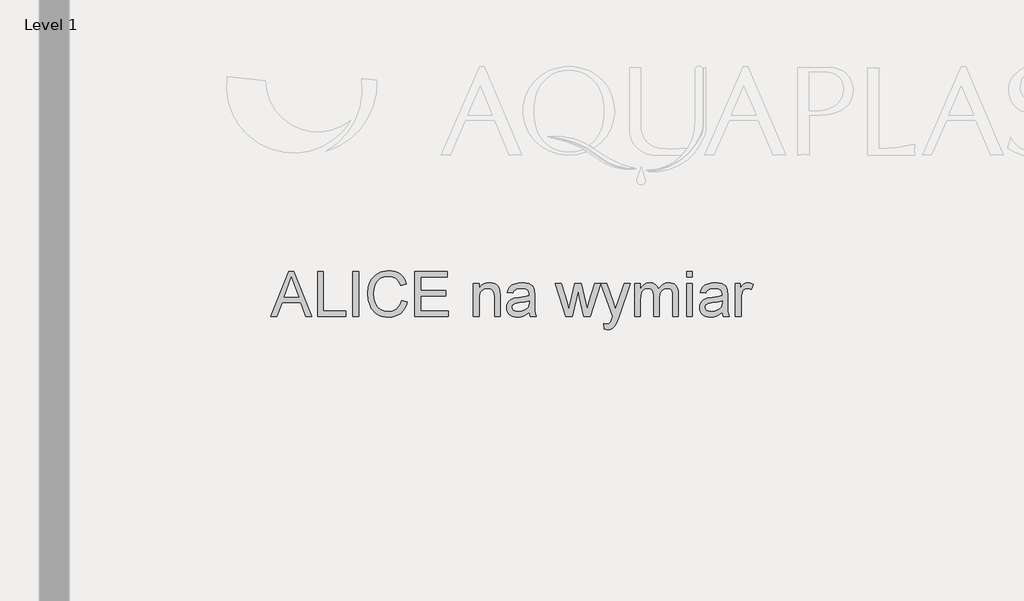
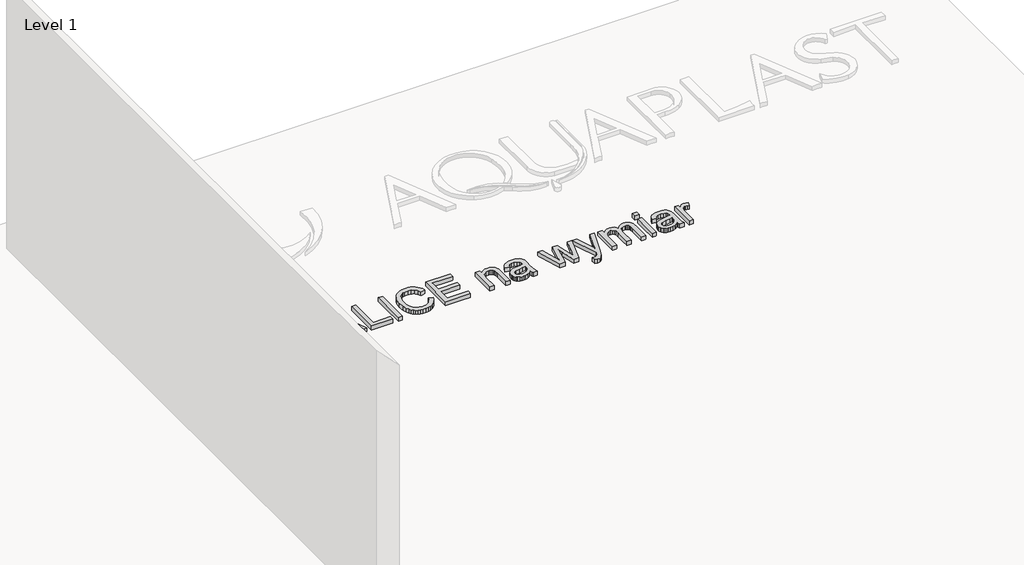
# One storey, part 9 of 9: 1 proxy.
"""IFC4 building model written with IfcOpenShell, lengths in millimetres."""

from ifc_helpers import new_model, si_unit, frame, origin, place, context, project, spatial, polyline, outline, extrude, element, save

model = new_model("IFC4")

# Units and contexts
model_context = context("Model", 3, world=origin())
ifc_project = project(units=[si_unit("LENGTHUNIT", "METRE", prefix="MILLI")], contexts=[model_context])

# Site, building, storey
site = spatial("IfcSite", under=ifc_project)
building = spatial("IfcBuilding", under=site)
storey = spatial("IfcBuildingStorey", under=building, Name="Level 1", Elevation=0.0)

# Proxy
placement = place(None, origin())
element("IfcBuildingElementProxy", 1, Name="400", ObjectType="400", at=placement, inside=storey, context=model_context, shape_type="SweptSolid", body=[
    extrude(outline(polyline([(-355.80079, 13060.2215643), (-195.4042401, 13462.0468049), (-152.6318268, 13462.0468049), (7.6666212, 13060.2215643), (-45.4064879, 13060.2215643), (-91.3181609, 13185.7919519), (-256.9141097, 13185.7919519), (-302.8257827, 13060.2215643), (-355.80079, 13060.2215643)]), holes=[polyline([(-238.470959, 13236.020107), (-109.6632098, 13236.020107), (-145.9609, 13334.8086855), (-174.1161353, 13411.8186498), (-199.132111, 13343.4416496), (-238.470959, 13236.020107)])]), frame((0.0, 0.0, 600.0), z_axis=(0.0, 0.0, 1.0), x_axis=(1.0, 0.0, 0.0)), (0.0, 0.0, 1.0), 50.0),
    extrude(outline(polyline([(61.3283416, 13060.2215643), (61.3283416, 13462.0468049), (111.5564967, 13462.0468049), (111.5564967, 13110.4497193), (312.469117, 13110.4497193), (312.469117, 13060.2215643), (61.3283416, 13060.2215643)])), frame((0.0, 0.0, 600.0), z_axis=(0.0, 0.0, 1.0), x_axis=(1.0, 0.0, 0.0)), (0.0, 0.0, 1.0), 50.0),
    extrude(outline(polyline([(375.2543108, 13060.2215643), (375.2543108, 13462.0468049), (425.4824659, 13462.0468049), (425.4824659, 13060.2215643), (375.2543108, 13060.2215643)])), frame((0.0, 0.0, 600.0), z_axis=(0.0, 0.0, 1.0), x_axis=(1.0, 0.0, 0.0)), (0.0, 0.0, 1.0), 50.0),
    extrude(outline(polyline([(808.4721483, 13203.0578803), (858.7003034, 13190.108434), (848.7613582, 13158.8721869), (835.5237377, 13131.5784086), (818.987442, 13108.2270989), (799.1524711, 13088.818258), (776.4664148, 13073.5603523), (751.3768627, 13062.6618482), (723.8838149, 13056.1227457), (693.9872714, 13053.9430449), (663.3580297, 13055.5923825), (635.7270261, 13060.5403953), (611.0942609, 13068.7870834), (589.4597339, 13080.3324467), (570.5260739, 13095.0048069), (553.9959095, 13112.6324858), (539.8692409, 13133.2154835), (528.146068, 13156.7537998), (512.3639304, 13208.6251611), (507.1032179, 13264.1753424), (513.0506435, 13322.7666815), (520.4849255, 13349.0641128), (530.8929202, 13373.3627186), (544.0416359, 13395.2608943), (559.6980805, 13414.3570355), (577.862254, 13430.6511423), (598.5341564, 13444.1432144), (621.0117463, 13454.7228875), (644.5929822, 13462.2797968), (695.066392, 13468.3253242), (723.7949101, 13466.3694183), (750.1383266, 13460.5017005), (774.0966416, 13450.7221708), (795.6698549, 13437.0308292), (814.5023474, 13419.7894263), (830.2384997, 13399.3597129), (842.8783119, 13375.7416888), (852.421784, 13348.9353541), (802.1936289, 13336.9669265), (784.7805478, 13373.5957105), (760.9908455, 13398.7220508), (730.5302163, 13413.2533896), (693.1043546, 13418.0971692), (649.9640593, 13412.726092), (631.2817854, 13406.0122456), (614.5247605, 13396.6128606), (587.6325866, 13371.4497322), (570.1336664, 13338.9289638), (560.5319463, 13302.1652898), (557.331373, 13264.2734442), (561.1205575, 13217.8712619), (572.4881112, 13177.747599), (591.8632296, 13145.4352971), (619.6751084, 13122.4671978), (653.0174799, 13108.7451994), (688.9840763, 13104.1711999), (710.8209384, 13105.7285671), (730.910361, 13110.4006684), (749.2523442, 13118.187504), (765.8468878, 13129.0890738), (780.3015846, 13143.0563268), (792.2240269, 13160.0402123), (801.6142148, 13180.0407301), (808.4721483, 13203.0578803)])), frame((0.0, 0.0, 600.0), z_axis=(0.0, 0.0, 1.0), x_axis=(1.0, 0.0, 0.0)), (0.0, 0.0, 1.0), 50.0),
    extrude(outline(polyline([(927.7640166, 13060.2215643), (927.7640166, 13462.0468049), (1216.5759083, 13462.0468049), (1216.5759083, 13411.8186498), (977.9921717, 13411.8186498), (977.9921717, 13292.5267815), (1204.0188695, 13292.5267815), (1204.0188695, 13242.2986264), (977.9921717, 13242.2986264), (977.9921717, 13110.4497193), (1222.8544277, 13110.4497193), (1222.8544277, 13060.2215643), (927.7640166, 13060.2215643)])), frame((0.0, 0.0, 600.0), z_axis=(0.0, 0.0, 1.0), x_axis=(1.0, 0.0, 0.0)), (0.0, 0.0, 1.0), 50.0),
    extrude(outline(polyline([(1448.8811255, 13060.2215643), (1448.8811255, 13355.3119753), (1499.1092806, 13355.3119753), (1499.1092806, 13314.1091919), (1516.5591499, 13334.8822619), (1537.5161609, 13349.720169), (1561.9803136, 13358.6229133), (1589.951608, 13361.5904947), (1614.7100662, 13359.1992617), (1637.3838599, 13352.0255628), (1656.2929944, 13340.9645775), (1669.7574754, 13326.9114853), (1678.8932117, 13309.9030744), (1684.8161118, 13289.976133), (1687.4648621, 13241.4157096), (1687.4648621, 13060.2215643), (1637.2367071, 13060.2215643), (1637.2367071, 13234.6466809), (1635.7897046, 13260.6191498), (1631.448697, 13279.0868259), (1623.4411322, 13292.318315), (1610.9944581, 13302.5822227), (1595.0406422, 13309.1673104), (1576.5116524, 13311.3623396), (1547.0933555, 13306.4327209), (1522.0160662, 13291.6438647), (1511.9943475, 13279.5712039), (1504.835977, 13263.0716964), (1500.5409547, 13242.1453422), (1499.1092806, 13216.7921414), (1499.1092806, 13060.2215643), (1448.8811255, 13060.2215643)])), frame((0.0, 0.0, 600.0), z_axis=(0.0, 0.0, 1.0), x_axis=(1.0, 0.0, 0.0)), (0.0, 0.0, 1.0), 50.0),
    extrude(outline(polyline([(1944.8841569, 13097.8926806), (1920.8859881, 13077.3158143), (1896.1765807, 13063.8513333), (1870.1918491, 13056.420117), (1842.3677076, 13053.9430449), (1820.003548, 13055.432967), (1800.3923719, 13059.9027332), (1783.5341795, 13067.3523436), (1769.4289707, 13077.7817982), (1758.2913433, 13090.5289093), (1750.3358951, 13104.9314894), (1745.5626262, 13120.9895385), (1743.9715366, 13138.7030566), (1746.3750323, 13159.5251775), (1753.5855194, 13178.434312), (1764.7078184, 13194.6211198), (1778.8467497, 13207.2762605), (1795.4627532, 13216.8411923), (1814.0162685, 13223.7573738), (1857.4753948, 13231.3112175), (1908.8317214, 13239.2574686), (1944.5898513, 13248.5771458), (1944.8841569, 13259.7607584), (1941.4260661, 13282.1770347), (1931.0517939, 13296.8432636), (1907.8507027, 13307.7325706), (1875.5261381, 13311.3623396), (1845.6050691, 13308.9465812), (1824.7093718, 13301.6993059), (1810.4600759, 13288.2961385), (1800.4782111, 13267.4127039), (1750.250056, 13273.6912233), (1758.9688593, 13301.1597456), (1771.9796192, 13322.742156), (1790.4963463, 13339.2477949), (1815.7330511, 13351.4860026), (1846.5983505, 13359.0643717), (1882.0008612, 13361.5904947), (1915.9563693, 13359.3586773), (1942.8730687, 13352.663225), (1963.1678921, 13342.595521), (1977.2577725, 13330.2469487), (1986.6019752, 13314.9798459), (1992.6597653, 13296.1565505), (1995.112312, 13252.2069148), (1995.112312, 13189.7160266), (1997.6629605, 13102.4544173), (2007.6693507, 13060.2215643), (1957.4411957, 13060.2215643), (1949.3968427, 13077.6836963), (1944.8841569, 13097.8926806)]), holes=[polyline([(1944.8841569, 13198.3489907), (1911.1371152, 13189.9858067), (1863.8520161, 13182.9469978), (1820.6381444, 13174.804543), (1809.3932181, 13169.2372622), (1801.0668223, 13161.5607912), (1795.9164743, 13152.3637413), (1794.1996917, 13142.2347237), (1797.9398253, 13127.2987147), (1809.1602261, 13115.060507), (1827.6156396, 13106.8935267), (1853.0608109, 13104.1711999), (1880.0388239, 13107.1755696), (1903.8775772, 13116.1886785), (1923.2036446, 13129.4692185), (1936.6436002, 13145.2758815), (1942.6032885, 13161.5607912), (1944.5898513, 13184.1242202), (1944.8841569, 13198.3489907)])]), frame((0.0, 0.0, 600.0), z_axis=(0.0, 0.0, 1.0), x_axis=(1.0, 0.0, 0.0)), (0.0, 0.0, 1.0), 50.0),
    extrude(outline(polyline([(2270.4842481, 13060.2215643), (2180.3286338, 13355.3119753), (2232.4207243, 13355.3119753), (2283.4336943, 13183.1432016), (2298.6394835, 13121.633332), (2311.0984204, 13180.8868587), (2351.6144908, 13355.3119753), (2411.2604249, 13355.3119753), (2451.7764953, 13181.377368), (2462.8620061, 13127.7156476), (2478.7545083, 13184.320424), (2529.7674783, 13355.3119753), (2582.1538744, 13355.3119753), (2491.7039545, 13060.2215643), (2431.0770017, 13060.2215643), (2392.4248668, 13233.2732548), (2381.2412541, 13287.2292807), (2331.5036084, 13060.2215643), (2270.4842481, 13060.2215643)])), frame((0.0, 0.0, 600.0), z_axis=(0.0, 0.0, 1.0), x_axis=(1.0, 0.0, 0.0)), (0.0, 0.0, 1.0), 50.0),
    extrude(outline(polyline([(2616.685731, 12947.2082153), (2610.4072116, 12995.572435), (2635.9136966, 12991.157851), (2649.3291267, 12992.5435399), (2659.7524499, 12996.7006064), (2674.3696279, 13012.1516502), (2688.103889, 13049.1360535), (2692.0279636, 13061.3006848), (2585.2931341, 13355.3119753), (2638.1700395, 13355.3119753), (2694.8729177, 13191.3837583), (2714.5913927, 13125.8517122), (2734.3098676, 13183.8299146), (2792.4842738, 13355.3119753), (2844.9687718, 13355.3119753), (2742.2561187, 13053.1582299), (2715.5724113, 12987.6261839), (2701.9117266, 12966.7059611), (2686.4361573, 12952.2114105), (2668.4835159, 12943.7501246), (2647.3916149, 12940.929696), (2616.685731, 12947.2082153)])), frame((0.0, 0.0, 600.0), z_axis=(0.0, 0.0, 1.0), x_axis=(1.0, 0.0, 0.0)), (0.0, 0.0, 1.0), 50.0),
    extrude(outline(polyline([(2886.6620646, 13060.2215643), (2886.6620646, 13355.3119753), (2936.8902196, 13355.3119753), (2936.8902196, 13306.751552), (2951.9979069, 13329.0574636), (2971.4220762, 13346.5318584), (2994.5005401, 13357.8258356), (3020.5711108, 13361.5904947), (3048.505617, 13357.7522592), (3070.8973677, 13346.2375528), (3087.6237358, 13327.8066648), (3098.5620938, 13303.2198848), (3116.8703544, 13328.7570266), (3137.753789, 13346.9978422), (3161.2123976, 13357.9423316), (3187.2461801, 13361.5904947), (3207.3539968, 13360.0729815), (3225.0031355, 13355.5204418), (3240.1935962, 13347.9328756), (3252.9253789, 13337.310283), (3262.9900172, 13323.5300366), (3270.1790445, 13306.4695091), (3274.4924609, 13286.1287004), (3275.9302664, 13262.5076107), (3275.9302664, 13060.2215643), (3225.7021113, 13060.2215643), (3225.7021113, 13240.9252003), (3224.5371517, 13265.9779642), (3221.0422727, 13282.8637477), (3214.4939732, 13294.4275051), (3204.1687519, 13303.5141904), (3190.8882118, 13309.4003023), (3175.4739562, 13311.3623396), (3148.2629513, 13306.334619), (3126.079667, 13291.2514572), (3117.474294, 13279.6815685), (3111.327599, 13265.0827846), (3106.410243, 13226.7985317), (3106.410243, 13060.2215643), (3056.1820879, 13060.2215643), (3056.1820879, 13246.5170066), (3053.2758202, 13274.9174966), (3044.5570169, 13295.1755318), (3029.2163377, 13307.3156377), (3006.4444422, 13311.3623396), (2987.0938492, 13308.6645383), (2969.2638352, 13300.5711344), (2954.5485554, 13287.2783317), (2944.5421651, 13268.9823338), (2938.803206, 13243.5984761), (2936.8902196, 13209.042094), (2936.8902196, 13060.2215643), (2886.6620646, 13060.2215643)])), frame((0.0, 0.0, 600.0), z_axis=(0.0, 0.0, 1.0), x_axis=(1.0, 0.0, 0.0)), (0.0, 0.0, 1.0), 50.0),
    extrude(outline(polyline([(3351.272499, 13411.8186498), (3351.272499, 13462.0468049), (3401.5006541, 13462.0468049), (3401.5006541, 13411.8186498), (3351.272499, 13411.8186498)])), frame((0.0, 0.0, 600.0), z_axis=(0.0, 0.0, 1.0), x_axis=(1.0, 0.0, 0.0)), (0.0, 0.0, 1.0), 50.0),
    extrude(outline(polyline([(3351.272499, 13060.2215643), (3351.272499, 13355.3119753), (3401.5006541, 13355.3119753), (3401.5006541, 13060.2215643), (3351.272499, 13060.2215643)])), frame((0.0, 0.0, 600.0), z_axis=(0.0, 0.0, 1.0), x_axis=(1.0, 0.0, 0.0)), (0.0, 0.0, 1.0), 50.0),
    extrude(outline(polyline([(3665.1984682, 13097.8926806), (3641.2002994, 13077.3158143), (3616.490892, 13063.8513333), (3590.5061605, 13056.420117), (3562.6820189, 13053.9430449), (3540.3178593, 13055.432967), (3520.7066832, 13059.9027332), (3503.8484908, 13067.3523436), (3489.743282, 13077.7817982), (3478.6056546, 13090.5289093), (3470.6502064, 13104.9314894), (3465.8769375, 13120.9895385), (3464.2858479, 13138.7030566), (3466.6893436, 13159.5251775), (3473.8998307, 13178.434312), (3485.0221297, 13194.6211198), (3499.1610611, 13207.2762605), (3515.7770645, 13216.8411923), (3534.3305798, 13223.7573738), (3577.7897062, 13231.3112175), (3629.1460327, 13239.2574686), (3664.9041626, 13248.5771458), (3665.1984682, 13259.7607584), (3661.7403775, 13282.1770347), (3651.3661052, 13296.8432636), (3628.165014, 13307.7325706), (3595.8404494, 13311.3623396), (3565.9193804, 13308.9465812), (3545.0236831, 13301.6993059), (3530.7743872, 13288.2961385), (3520.7925224, 13267.4127039), (3470.5643673, 13273.6912233), (3479.2831706, 13301.1597456), (3492.2939305, 13322.742156), (3510.8106576, 13339.2477949), (3536.0473624, 13351.4860026), (3566.9126618, 13359.0643717), (3602.3151725, 13361.5904947), (3636.2706807, 13359.3586773), (3663.18738, 13352.663225), (3683.4822034, 13342.595521), (3697.5720838, 13330.2469487), (3706.9162865, 13314.9798459), (3712.9740767, 13296.1565505), (3715.4266233, 13252.2069148), (3715.4266233, 13189.7160266), (3717.9772718, 13102.4544173), (3727.9836621, 13060.2215643), (3677.755507, 13060.2215643), (3669.711154, 13077.6836963), (3665.1984682, 13097.8926806)]), holes=[polyline([(3665.1984682, 13198.3489907), (3631.4514265, 13189.9858067), (3584.1663274, 13182.9469978), (3540.9524557, 13174.804543), (3529.7075294, 13169.2372622), (3521.3811336, 13161.5607912), (3516.2307856, 13152.3637413), (3514.514003, 13142.2347237), (3518.2541366, 13127.2987147), (3529.4745375, 13115.060507), (3547.9299509, 13106.8935267), (3573.3751222, 13104.1711999), (3600.3531352, 13107.1755696), (3624.1918885, 13116.1886785), (3643.517956, 13129.4692185), (3656.9579115, 13145.2758815), (3662.9175998, 13161.5607912), (3664.9041626, 13184.1242202), (3665.1984682, 13198.3489907)])]), frame((0.0, 0.0, 600.0), z_axis=(0.0, 0.0, 1.0), x_axis=(1.0, 0.0, 0.0)), (0.0, 0.0, 1.0), 50.0),
    extrude(outline(polyline([(3784.4903365, 13060.2215643), (3784.4903365, 13355.3119753), (3828.4399722, 13355.3119753), (3828.4399722, 13311.6566452), (3844.6758309, 13336.9669265), (3859.6363654, 13351.87841), (3874.6459508, 13359.1624735), (3891.0289623, 13361.5904947), (3916.044938, 13357.715471), (3941.4533211, 13346.0904), (3924.6779021, 13301.0616438), (3907.0195664, 13308.7871657), (3889.3612306, 13311.3623396), (3874.3639079, 13308.8852675), (3860.9607406, 13301.4540512), (3850.1327472, 13289.6327764), (3842.8609464, 13273.9855289), (3836.7541053, 13245.9283954), (3834.7184916, 13215.3206134), (3834.7184916, 13060.2215643), (3784.4903365, 13060.2215643)])), frame((0.0, 0.0, 600.0), z_axis=(0.0, 0.0, 1.0), x_axis=(1.0, 0.0, 0.0)), (0.0, 0.0, 1.0), 50.0),
])

save(model, "model.ifc")
